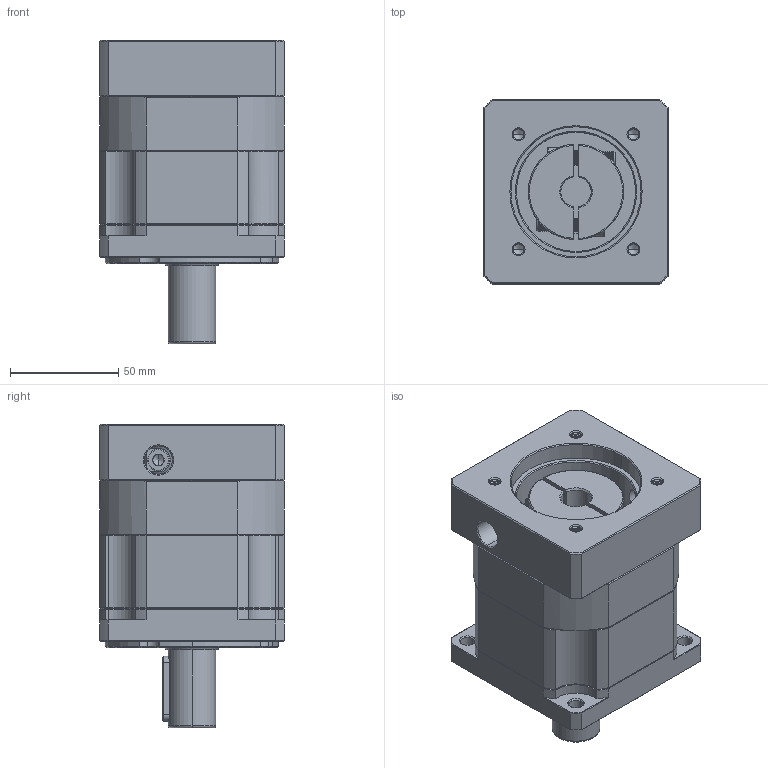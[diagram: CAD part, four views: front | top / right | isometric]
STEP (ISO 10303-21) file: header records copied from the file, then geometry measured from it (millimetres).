
FILE_DESCRIPTION (( 'STEP AP214' ), '1' );
FILE_NAME ('ZB90-D22-L1-14-60-75-M6.STEP', '2022-05-02T15:54:03', ( '' ), ( 'Microsoft' ), 'SwSTEP 2.0', 'SolidWorks 2016', '' );
FILE_SCHEMA (( 'AUTOMOTIVE_DESIGN' ));
Length unit declared in the file: millimetre
Products named in the file (1): ZB90-D22-L1-14-60-75-M6
Bounding box: 85 x 85 x 140 mm (x, y, z)
Volume: 620691.9 mm3; surface area: 86176.1 mm2
Topology: 4 solids, 5 shells, 1950 faces, 5081 edges, 3211 vertices
Faces by surface type: plane 882, cylinder 400, cone 342, bspline 299, torus 27
Entity records: 104995 total; most frequent: CARTESIAN_POINT 38456, ORIENTED_EDGE 10118, DIRECTION 8225, EDGE_CURVE 5059, VERTEX_POINT 3211, LINE 3101, VECTOR 3101, AXIS2_PLACEMENT_3D 2562
